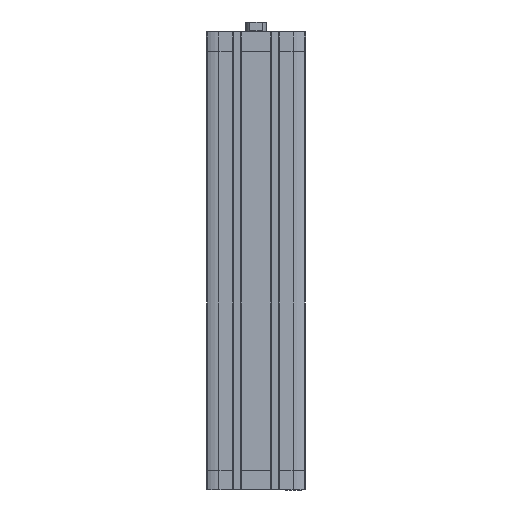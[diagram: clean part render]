
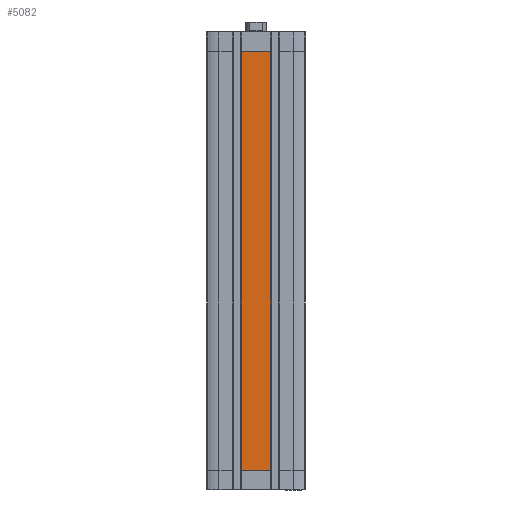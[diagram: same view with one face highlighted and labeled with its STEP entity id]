
A CAD part, front view. The second image highlights one B-rep face of the part: STEP entity #5082.
In plain terms, the highlighted planar face has unit normal (0, -1, 0).
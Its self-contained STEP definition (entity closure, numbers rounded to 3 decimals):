
#311 = VERTEX_POINT ( 'NONE', #14755 ) ;
#576 = DIRECTION ( 'NONE',  ( 0., 0., 1. ) ) ;
#1579 = VECTOR ( 'NONE', #11181, 1000. ) ;
#1695 = LINE ( 'NONE', #4023, #13824 ) ;
#1933 = VECTOR ( 'NONE', #7623, 1000. ) ;
#2537 = CARTESIAN_POINT ( 'NONE',  ( 11.4, -37.5, -334. ) ) ;
#3374 = EDGE_CURVE ( 'NONE', #6619, #12722, #4818, .T. ) ;
#4023 = CARTESIAN_POINT ( 'NONE',  ( 0., -37.5, -15. ) ) ;
#4086 = CARTESIAN_POINT ( 'NONE',  ( -11.4, -37.5, -334. ) ) ;
#4812 = FACE_OUTER_BOUND ( 'NONE', #10315, .T. ) ;
#4818 = LINE ( 'NONE', #13530, #1579 ) ;
#5014 = CARTESIAN_POINT ( 'NONE',  ( 11.4, -37.5, -15. ) ) ;
#5082 = ADVANCED_FACE ( 'NONE', ( #4812 ), #9735, .T. ) ;
#5140 = DIRECTION ( 'NONE',  ( 0., -1., 0. ) ) ;
#5145 = VECTOR ( 'NONE', #576, 1000. ) ;
#6619 = VERTEX_POINT ( 'NONE', #13052 ) ;
#7097 = ORIENTED_EDGE ( 'NONE', *, *, #9421, .T. ) ;
#7623 = DIRECTION ( 'NONE',  ( 0., 0., -1. ) ) ;
#7726 = CARTESIAN_POINT ( 'NONE',  ( 11.4, -37.5, -334. ) ) ;
#8215 = LINE ( 'NONE', #7726, #5145 ) ;
#8633 = EDGE_CURVE ( 'NONE', #12722, #15077, #8215, .T. ) ;
#8643 = ORIENTED_EDGE ( 'NONE', *, *, #8633, .T. ) ;
#9421 = EDGE_CURVE ( 'NONE', #311, #6619, #11680, .T. ) ;
#9567 = ORIENTED_EDGE ( 'NONE', *, *, #3374, .T. ) ;
#9735 = PLANE ( 'NONE',  #13845 ) ;
#10315 = EDGE_LOOP ( 'NONE', ( #9567, #8643, #10870, #7097 ) ) ;
#10782 = EDGE_CURVE ( 'NONE', #15077, #311, #1695, .T. ) ;
#10870 = ORIENTED_EDGE ( 'NONE', *, *, #10782, .T. ) ;
#11181 = DIRECTION ( 'NONE',  ( 1., 0., 0. ) ) ;
#11680 = LINE ( 'NONE', #4086, #1933 ) ;
#12070 = CARTESIAN_POINT ( 'NONE',  ( -11.4, -37.5, -334. ) ) ;
#12722 = VERTEX_POINT ( 'NONE', #2537 ) ;
#13052 = CARTESIAN_POINT ( 'NONE',  ( -11.4, -37.5, -334. ) ) ;
#13237 = DIRECTION ( 'NONE',  ( 0., 0., -1. ) ) ;
#13530 = CARTESIAN_POINT ( 'NONE',  ( -11.4, -37.5, -334. ) ) ;
#13824 = VECTOR ( 'NONE', #14492, 1000. ) ;
#13845 = AXIS2_PLACEMENT_3D ( 'NONE', #12070, #5140, #13237 ) ;
#14492 = DIRECTION ( 'NONE',  ( -1., 0., 0. ) ) ;
#14755 = CARTESIAN_POINT ( 'NONE',  ( -11.4, -37.5, -15. ) ) ;
#15077 = VERTEX_POINT ( 'NONE', #5014 ) ;
